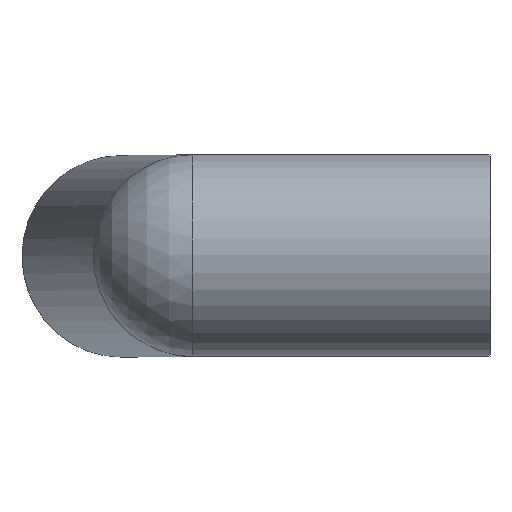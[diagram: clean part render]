
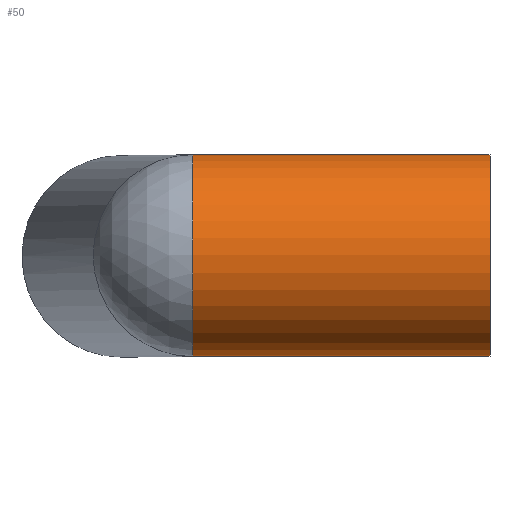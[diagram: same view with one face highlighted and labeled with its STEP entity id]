
A CAD part, top view. The second image highlights one B-rep face of the part: STEP entity #50.
In plain terms, the highlighted cylindrical face has radius 17 mm (diameter 34 mm), a full revolution.
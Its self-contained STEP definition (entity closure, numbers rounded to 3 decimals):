
#50 = ADVANCED_FACE( '', ( #101, #102 ), #103, .T. );
#101 = FACE_OUTER_BOUND( '', #145, .T. );
#102 = FACE_OUTER_BOUND( '', #146, .T. );
#103 = CYLINDRICAL_SURFACE( '', #147, 17. );
#145 = EDGE_LOOP( '', ( #201 ) );
#146 = EDGE_LOOP( '', ( #202, #203 ) );
#147 = AXIS2_PLACEMENT_3D( '', #204, #205, #206 );
#201 = ORIENTED_EDGE( '', *, *, #230, .T. );
#202 = ORIENTED_EDGE( '', *, *, #224, .F. );
#203 = ORIENTED_EDGE( '', *, *, #226, .F. );
#204 = CARTESIAN_POINT( '', ( 19.865, 0., 112.659 ) );
#205 = DIRECTION( '', ( 1., 0., 0. ) );
#206 = DIRECTION( '', ( 0., 0., 1. ) );
#224 = EDGE_CURVE( '', #249, #250, #252, .F. );
#226 = EDGE_CURVE( '', #250, #249, #254, .T. );
#230 = EDGE_CURVE( '', #258, #258, #259, .T. );
#249 = VERTEX_POINT( '', #278 );
#250 = VERTEX_POINT( '', #279 );
#252 = ELLIPSE( '', #281, 22.192, 17. );
#254 = CIRCLE( '', #283, 17. );
#258 = VERTEX_POINT( '', #287 );
#259 = CIRCLE( '', #288, 17. );
#278 = CARTESIAN_POINT( '', ( 19.865, 17., 112.659 ) );
#279 = CARTESIAN_POINT( '', ( 19.865, -17., 112.659 ) );
#281 = AXIS2_PLACEMENT_3D( '', #311, #312, #313 );
#283 = AXIS2_PLACEMENT_3D( '', #314, #315, #316 );
#287 = CARTESIAN_POINT( '', ( 70., 0., 129.659 ) );
#288 = AXIS2_PLACEMENT_3D( '', #317, #318, #319 );
#311 = CARTESIAN_POINT( '', ( 19.865, 0., 112.659 ) );
#312 = DIRECTION( '', ( 0.766, 0., 0.643 ) );
#313 = DIRECTION( '', ( -0.643, 0., 0.766 ) );
#314 = CARTESIAN_POINT( '', ( 19.865, 0., 112.659 ) );
#315 = DIRECTION( '', ( -1., 0., 0. ) );
#316 = DIRECTION( '', ( 0., 0., 1. ) );
#317 = CARTESIAN_POINT( '', ( 70., 0., 112.659 ) );
#318 = DIRECTION( '', ( -1., 0., 0. ) );
#319 = DIRECTION( '', ( 0., 0., 1. ) );
